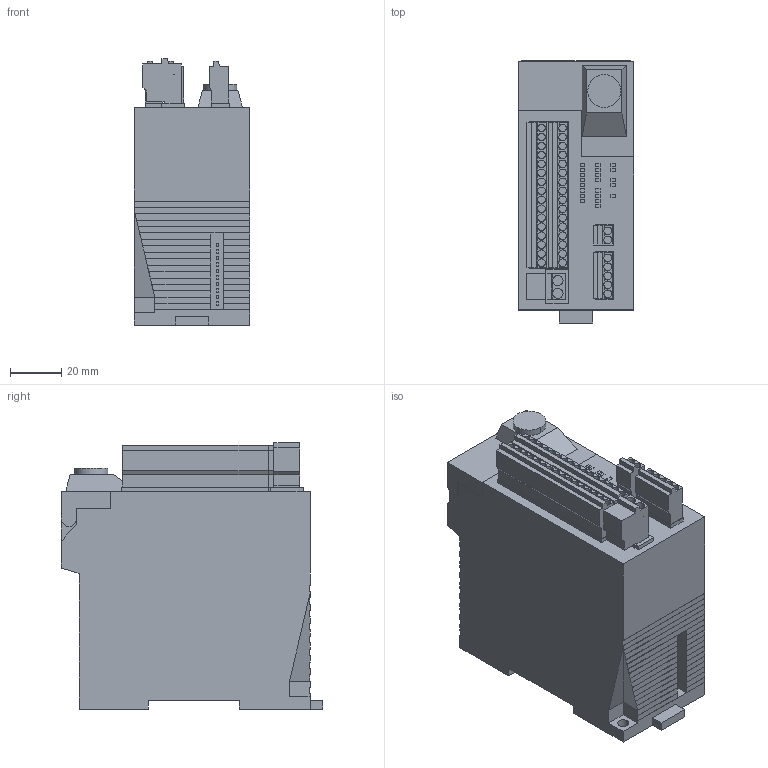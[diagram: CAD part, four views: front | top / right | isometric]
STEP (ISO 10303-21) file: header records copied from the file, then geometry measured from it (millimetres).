
FILE_DESCRIPTION (( 'STEP AP203' ), '1' );
FILE_NAME ('sf-c21.STEP', '2014-09-10T07:29:44', ( '**********' ), ( '**********' ), 'SwSTEP 2.0', 'SolidWorks 2010', '' );
FILE_SCHEMA (( 'CONFIG_CONTROL_DESIGN' ));
Length unit declared in the file: millimetre
Products named in the file (7): sf-c21; sf-c21_terminal1; sf-c21_terminal4; sf-c21_terminal3; sf-c21_terminal2; sf-c21_cover
Assembly tree (7 placements, depth 2):
  sf-c21
    sf-c21_terminal1  x2
    sf-c21
    sf-c21_cover
    sf-c21_terminal4
    sf-c21_terminal3
    sf-c21_terminal2
Bounding box: 45 x 102 x 103.9 mm (x, y, z)
Volume: 363982.1 mm3; surface area: 57280.7 mm2
Topology: 7 solids, 7 shells, 1354 faces, 3598 edges, 2394 vertices
Faces by surface type: plane 1238, cylinder 112, cone 4
Entity records: 35729 total; most frequent: CARTESIAN_POINT 6297, ORIENTED_EDGE 6074, DIRECTION 5513, EDGE_CURVE 3037, LINE 2825, VECTOR 2825, VERTEX_POINT 2020, AXIS2_PLACEMENT_3D 1344
